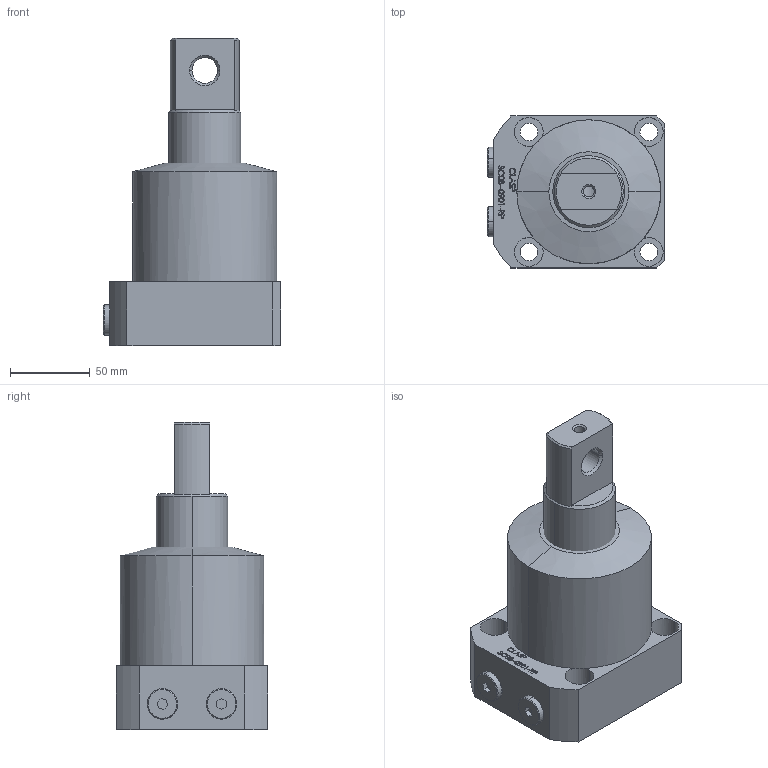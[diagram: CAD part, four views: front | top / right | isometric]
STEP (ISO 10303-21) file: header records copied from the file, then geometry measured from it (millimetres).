
FILE_DESCRIPTION (( 'STEP AP203' ), '1' );
FILE_NAME ('SC08-0901-RP.STEP', '2022-07-08T17:05:42', ( '' ), ( '' ), 'SwSTEP 2.0', 'SolidWorks 2017', '' );
FILE_SCHEMA (( 'CONFIG_CONTROL_DESIGN' ));
Length unit declared in the file: millimetre
Products named in the file (4): SC-08-0901-RP- BODY; SC-08-0901-RP+Piston; sc-08-0901-RP-05 plug; SC08-0901-RP
Assembly tree (4 placements, depth 2):
  SC08-0901-RP
    SC-08-0901-RP- BODY
    SC-08-0901-RP+Piston
    sc-08-0901-RP-05 plug  x2
Bounding box: 111 x 95 x 192 mm (x, y, z)
Volume: 937649.7 mm3; surface area: 81694.8 mm2
Topology: 4 solids, 4 shells, 341 faces, 852 edges, 559 vertices
Faces by surface type: plane 151, bspline 118, cylinder 51, cone 21
Entity records: 17107 total; most frequent: CARTESIAN_POINT 9524, ORIENTED_EDGE 1640, DIRECTION 1135, EDGE_CURVE 820, VERTEX_POINT 539, VECTOR 443, LINE 443, EDGE_LOOP 377
